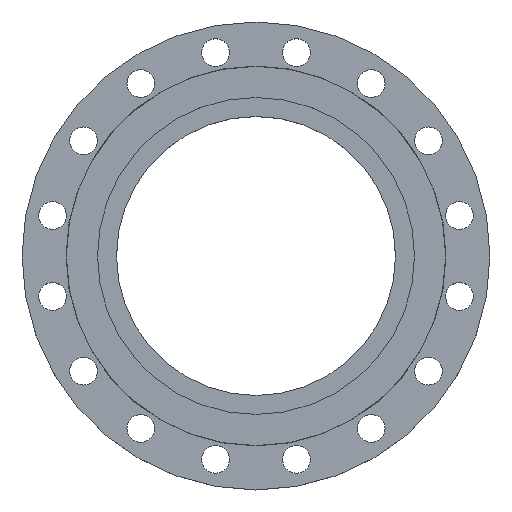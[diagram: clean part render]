
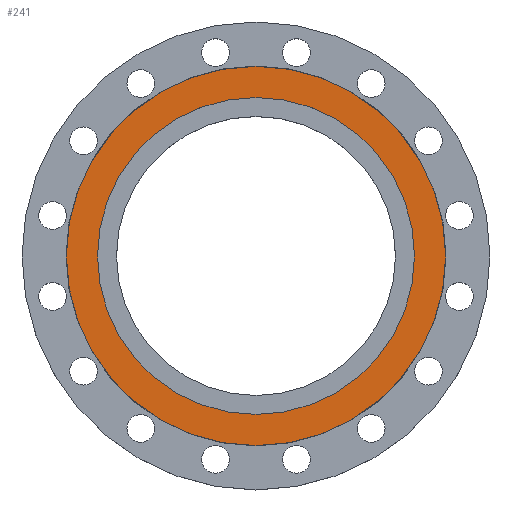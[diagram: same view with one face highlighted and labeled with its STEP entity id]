
A CAD part, top view. The second image highlights one B-rep face of the part: STEP entity #241.
In plain terms, the highlighted planar face has unit normal (0, 0, 1).
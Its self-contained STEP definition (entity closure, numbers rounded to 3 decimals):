
#38 = CIRCLE ( 'NONE', #44, 267.5 ) ;
#40 = VERTEX_POINT ( 'NONE', #1171 ) ;
#44 = AXIS2_PLACEMENT_3D ( 'NONE', #810, #809, #807 ) ;
#56 = EDGE_CURVE ( 'NONE', #40, #1640, #212, .T. ) ;
#68 = CIRCLE ( 'NONE', #80, 223.5 ) ;
#80 = AXIS2_PLACEMENT_3D ( 'NONE', #1560, #1559, #1558 ) ;
#117 = CIRCLE ( 'NONE', #118, 223.5 ) ;
#118 = AXIS2_PLACEMENT_3D ( 'NONE', #1498, #1497, #1496 ) ;
#136 = ORIENTED_EDGE ( 'NONE', *, *, #677, .T. ) ;
#159 = ORIENTED_EDGE ( 'NONE', *, *, #474, .T. ) ;
#163 = ORIENTED_EDGE ( 'NONE', *, *, #351, .F. ) ;
#212 = CIRCLE ( 'NONE', #214, 267.5 ) ;
#214 = AXIS2_PLACEMENT_3D ( 'NONE', #1158, #1157, #1156 ) ;
#241 = ADVANCED_FACE ( 'NONE', ( #975, #974 ), #969, .T. ) ;
#279 = EDGE_LOOP ( 'NONE', ( #1481, #163 ) ) ;
#351 = EDGE_CURVE ( 'NONE', #1640, #40, #38, .T. ) ;
#392 = CARTESIAN_POINT ( 'NONE',  ( 223.5, 0., 0. ) ) ;
#400 = CARTESIAN_POINT ( 'NONE',  ( 267.5, 0., 0. ) ) ;
#474 = EDGE_CURVE ( 'NONE', #1199, #1649, #68, .T. ) ;
#677 = EDGE_CURVE ( 'NONE', #1649, #1199, #117, .T. ) ;
#807 = DIRECTION ( 'NONE',  ( -1., 0., 0. ) ) ;
#809 = DIRECTION ( 'NONE',  ( 0., 0., -1. ) ) ;
#810 = CARTESIAN_POINT ( 'NONE',  ( 0., 0., 0. ) ) ;
#964 = DIRECTION ( 'NONE',  ( 1., 0., 0. ) ) ;
#965 = DIRECTION ( 'NONE',  ( 0., 0., 1. ) ) ;
#968 = CARTESIAN_POINT ( 'NONE',  ( 0., 0., 0. ) ) ;
#969 = PLANE ( 'NONE',  #1251 ) ;
#974 = FACE_BOUND ( 'NONE', #1633, .T. ) ;
#975 = FACE_OUTER_BOUND ( 'NONE', #279, .T. ) ;
#1156 = DIRECTION ( 'NONE',  ( -1., 0., 0. ) ) ;
#1157 = DIRECTION ( 'NONE',  ( 0., 0., -1. ) ) ;
#1158 = CARTESIAN_POINT ( 'NONE',  ( 0., 0., 0. ) ) ;
#1171 = CARTESIAN_POINT ( 'NONE',  ( -267.5, 0., 0. ) ) ;
#1199 = VERTEX_POINT ( 'NONE', #1261 ) ;
#1251 = AXIS2_PLACEMENT_3D ( 'NONE', #968, #965, #964 ) ;
#1261 = CARTESIAN_POINT ( 'NONE',  ( -223.5, 0., 0. ) ) ;
#1481 = ORIENTED_EDGE ( 'NONE', *, *, #56, .F. ) ;
#1496 = DIRECTION ( 'NONE',  ( -1., 0., 0. ) ) ;
#1497 = DIRECTION ( 'NONE',  ( 0., 0., -1. ) ) ;
#1498 = CARTESIAN_POINT ( 'NONE',  ( 0., 0., 0. ) ) ;
#1558 = DIRECTION ( 'NONE',  ( -1., 0., 0. ) ) ;
#1559 = DIRECTION ( 'NONE',  ( 0., 0., -1. ) ) ;
#1560 = CARTESIAN_POINT ( 'NONE',  ( 0., 0., 0. ) ) ;
#1633 = EDGE_LOOP ( 'NONE', ( #159, #136 ) ) ;
#1640 = VERTEX_POINT ( 'NONE', #400 ) ;
#1649 = VERTEX_POINT ( 'NONE', #392 ) ;
